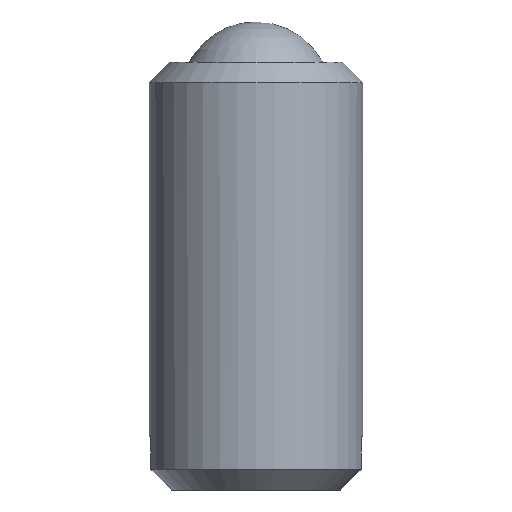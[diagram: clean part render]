
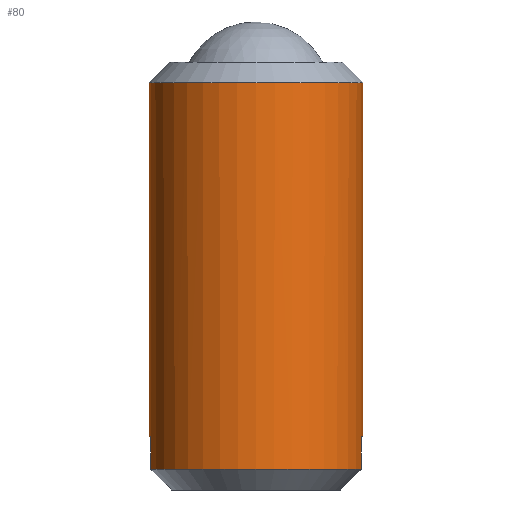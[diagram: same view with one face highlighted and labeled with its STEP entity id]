
A CAD part, front view. The second image highlights one B-rep face of the part: STEP entity #80.
In plain terms, the highlighted cylindrical face has radius 4 mm (diameter 8 mm), a full revolution.
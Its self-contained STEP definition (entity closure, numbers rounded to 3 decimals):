
#80 = ADVANCED_FACE( '', ( #100, #101 ), #102, .T. );
#100 = FACE_OUTER_BOUND( '', #126, .T. );
#101 = FACE_OUTER_BOUND( '', #127, .T. );
#102 = CYLINDRICAL_SURFACE( '', #128, 4. );
#126 = EDGE_LOOP( '', ( #172 ) );
#127 = EDGE_LOOP( '', ( #173, #174, #175, #176, #177, #178, #179, #180 ) );
#128 = AXIS2_PLACEMENT_3D( '', #181, #182, #183 );
#172 = ORIENTED_EDGE( '', *, *, #230, .F. );
#173 = ORIENTED_EDGE( '', *, *, #224, .F. );
#174 = ORIENTED_EDGE( '', *, *, #231, .T. );
#175 = ORIENTED_EDGE( '', *, *, #216, .F. );
#176 = ORIENTED_EDGE( '', *, *, #232, .T. );
#177 = ORIENTED_EDGE( '', *, *, #218, .F. );
#178 = ORIENTED_EDGE( '', *, *, #233, .T. );
#179 = ORIENTED_EDGE( '', *, *, #222, .F. );
#180 = ORIENTED_EDGE( '', *, *, #234, .T. );
#181 = CARTESIAN_POINT( '', ( 0., 0., 1.5 ) );
#182 = DIRECTION( '', ( 0., 0., -1. ) );
#183 = DIRECTION( '', ( 1., 0., 0. ) );
#216 = EDGE_CURVE( '', #238, #240, #241, .T. );
#218 = EDGE_CURVE( '', #242, #244, #245, .F. );
#222 = EDGE_CURVE( '', #250, #252, #253, .T. );
#224 = EDGE_CURVE( '', #254, #256, #257, .F. );
#230 = EDGE_CURVE( '', #265, #265, #266, .T. );
#231 = EDGE_CURVE( '', #254, #240, #267, .T. );
#232 = EDGE_CURVE( '', #238, #244, #268, .T. );
#233 = EDGE_CURVE( '', #242, #252, #269, .T. );
#234 = EDGE_CURVE( '', #250, #256, #270, .T. );
#238 = VERTEX_POINT( '', #274 );
#240 = VERTEX_POINT( '', #279 );
#241 = LINE( '', #280, #281 );
#242 = VERTEX_POINT( '', #282 );
#244 = VERTEX_POINT( '', #285 );
#245 = LINE( '', #286, #287 );
#250 = VERTEX_POINT( '', #296 );
#252 = VERTEX_POINT( '', #301 );
#253 = LINE( '', #302, #303 );
#254 = VERTEX_POINT( '', #304 );
#256 = VERTEX_POINT( '', #307 );
#257 = LINE( '', #308, #309 );
#265 = VERTEX_POINT( '', #321 );
#266 = CIRCLE( '', #322, 4. );
#267 = CIRCLE( '', #323, 4. );
#268 = CIRCLE( '', #324, 4. );
#269 = CIRCLE( '', #325, 4. );
#270 = CIRCLE( '', #326, 4. );
#274 = CARTESIAN_POINT( '', ( -3.929, -0.75, -15.233 ) );
#279 = CARTESIAN_POINT( '', ( -3.929, -0.75, -14. ) );
#280 = CARTESIAN_POINT( '', ( -3.929, -0.75, 1.5 ) );
#281 = VECTOR( '', #329, 1000. );
#282 = CARTESIAN_POINT( '', ( 3.929, -0.75, -14. ) );
#285 = CARTESIAN_POINT( '', ( 3.929, -0.75, -15.233 ) );
#286 = CARTESIAN_POINT( '', ( 3.929, -0.75, 1.5 ) );
#287 = VECTOR( '', #331, 1000. );
#296 = CARTESIAN_POINT( '', ( 3.929, 0.75, -15.233 ) );
#301 = CARTESIAN_POINT( '', ( 3.929, 0.75, -14. ) );
#302 = CARTESIAN_POINT( '', ( 3.929, 0.75, 1.5 ) );
#303 = VECTOR( '', #333, 1000. );
#304 = CARTESIAN_POINT( '', ( -3.929, 0.75, -14. ) );
#307 = CARTESIAN_POINT( '', ( -3.929, 0.75, -15.233 ) );
#308 = CARTESIAN_POINT( '', ( -3.929, 0.75, 1.5 ) );
#309 = VECTOR( '', #335, 1000. );
#321 = CARTESIAN_POINT( '', ( 4., 0., -0.767 ) );
#322 = AXIS2_PLACEMENT_3D( '', #343, #344, #345 );
#323 = AXIS2_PLACEMENT_3D( '', #346, #347, #348 );
#324 = AXIS2_PLACEMENT_3D( '', #349, #350, #351 );
#325 = AXIS2_PLACEMENT_3D( '', #352, #353, #354 );
#326 = AXIS2_PLACEMENT_3D( '', #355, #356, #357 );
#329 = DIRECTION( '', ( 0., 0., 1. ) );
#331 = DIRECTION( '', ( 0., 0., 1. ) );
#333 = DIRECTION( '', ( 0., 0., 1. ) );
#335 = DIRECTION( '', ( 0., 0., 1. ) );
#343 = CARTESIAN_POINT( '', ( 0., 0., -0.767 ) );
#344 = DIRECTION( '', ( 0., 0., 1. ) );
#345 = DIRECTION( '', ( 1., 0., 0. ) );
#346 = CARTESIAN_POINT( '', ( 0., 0., -14. ) );
#347 = DIRECTION( '', ( 0., 0., 1. ) );
#348 = DIRECTION( '', ( 1., 0., 0. ) );
#349 = CARTESIAN_POINT( '', ( 0., 0., -15.233 ) );
#350 = DIRECTION( '', ( 0., 0., 1. ) );
#351 = DIRECTION( '', ( 1., 0., 0. ) );
#352 = CARTESIAN_POINT( '', ( 0., 0., -14. ) );
#353 = DIRECTION( '', ( 0., 0., 1. ) );
#354 = DIRECTION( '', ( 1., 0., 0. ) );
#355 = CARTESIAN_POINT( '', ( 0., 0., -15.233 ) );
#356 = DIRECTION( '', ( 0., 0., 1. ) );
#357 = DIRECTION( '', ( 1., 0., 0. ) );
